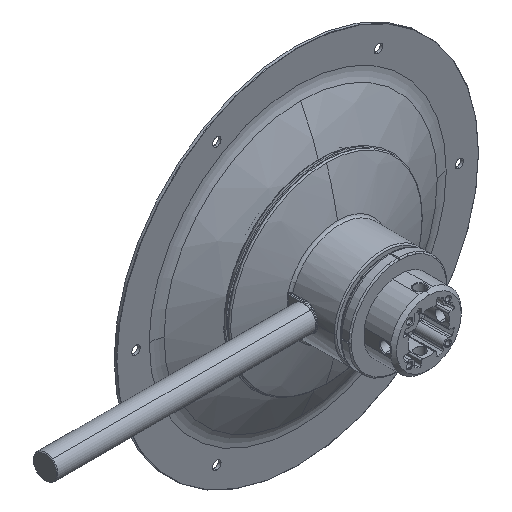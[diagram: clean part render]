
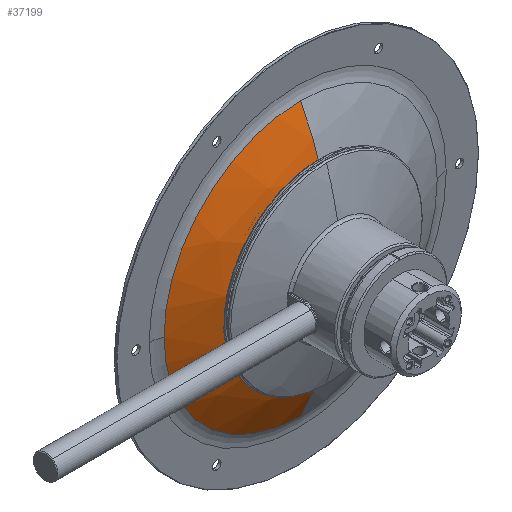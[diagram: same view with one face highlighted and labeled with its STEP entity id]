
A CAD part, isometric view. The second image highlights one B-rep face of the part: STEP entity #37199.
In plain terms, the highlighted spherical face has radius 229 mm.
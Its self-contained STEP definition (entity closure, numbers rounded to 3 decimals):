
#928 = AXIS2_PLACEMENT_3D ( 'NONE', #35428, #5881, #6812 ) ;
#960 = CIRCLE ( 'NONE', #16110, 229. ) ;
#1541 = DIRECTION ( 'NONE',  ( 0., 0., -1. ) ) ;
#1566 = VERTEX_POINT ( 'NONE', #18569 ) ;
#1586 = CARTESIAN_POINT ( 'NONE',  ( 40.352, -26.5, 0. ) ) ;
#1666 = FACE_OUTER_BOUND ( 'NONE', #27524, .T. ) ;
#1825 = DIRECTION ( 'NONE',  ( 0., -1., 0. ) ) ;
#2543 = EDGE_CURVE ( 'NONE', #18921, #1566, #26893, .T. ) ;
#2901 = VERTEX_POINT ( 'NONE', #18378 ) ;
#3545 = DIRECTION ( 'NONE',  ( 1., 0., 0. ) ) ;
#4294 = DIRECTION ( 'NONE',  ( 0., 0., -1. ) ) ;
#5845 = ORIENTED_EDGE ( 'NONE', *, *, #35687, .T. ) ;
#5881 = DIRECTION ( 'NONE',  ( 0., -1., 0. ) ) ;
#6812 = DIRECTION ( 'NONE',  ( 0., 0., -1. ) ) ;
#7820 = DIRECTION ( 'NONE',  ( -1., 0., 0. ) ) ;
#8016 = ORIENTED_EDGE ( 'NONE', *, *, #18979, .F. ) ;
#13157 = DIRECTION ( 'NONE',  ( 0., 0., -1. ) ) ;
#13326 = VERTEX_POINT ( 'NONE', #1586 ) ;
#13808 = DIRECTION ( 'NONE',  ( 0., 0., -1. ) ) ;
#14176 = CARTESIAN_POINT ( 'NONE',  ( 0., -4.256, 0. ) ) ;
#14584 = CARTESIAN_POINT ( 'NONE',  ( 0., 198.917, 0. ) ) ;
#15820 = CARTESIAN_POINT ( 'NONE',  ( 0., 198.917, 0. ) ) ;
#16110 = AXIS2_PLACEMENT_3D ( 'NONE', #14584, #20635, #3545 ) ;
#17247 = AXIS2_PLACEMENT_3D ( 'NONE', #27490, #33948, #1541 ) ;
#18378 = CARTESIAN_POINT ( 'NONE',  ( 105.65, -4.256, 0. ) ) ;
#18389 = VERTEX_POINT ( 'NONE', #27315 ) ;
#18569 = CARTESIAN_POINT ( 'NONE',  ( -105.65, -4.256, 0. ) ) ;
#18921 = VERTEX_POINT ( 'NONE', #28139 ) ;
#18979 = EDGE_CURVE ( 'NONE', #13326, #37515, #27203, .T. ) ;
#19362 = AXIS2_PLACEMENT_3D ( 'NONE', #24772, #1825, #4294 ) ;
#19580 = ORIENTED_EDGE ( 'NONE', *, *, #22890, .T. ) ;
#20409 = AXIS2_PLACEMENT_3D ( 'NONE', #23076, #28732, #28171 ) ;
#20635 = DIRECTION ( 'NONE',  ( 0., 0., 1. ) ) ;
#21555 = AXIS2_PLACEMENT_3D ( 'NONE', #14176, #34247, #13808 ) ;
#21953 = SPHERICAL_SURFACE ( 'NONE', #20409, 229. ) ;
#22500 = EDGE_CURVE ( 'NONE', #37515, #18389, #26359, .T. ) ;
#22890 = EDGE_CURVE ( 'NONE', #1566, #18389, #960, .T. ) ;
#23076 = CARTESIAN_POINT ( 'NONE',  ( 0., 198.917, 0. ) ) ;
#24342 = ORIENTED_EDGE ( 'NONE', *, *, #22500, .F. ) ;
#24772 = CARTESIAN_POINT ( 'NONE',  ( 0., -26.5, 0. ) ) ;
#26359 = CIRCLE ( 'NONE', #928, 40.352 ) ;
#26893 = CIRCLE ( 'NONE', #17247, 105.65 ) ;
#27203 = CIRCLE ( 'NONE', #19362, 40.352 ) ;
#27315 = CARTESIAN_POINT ( 'NONE',  ( -40.352, -26.5, 0. ) ) ;
#27490 = CARTESIAN_POINT ( 'NONE',  ( 0., -4.256, 0. ) ) ;
#27524 = EDGE_LOOP ( 'NONE', ( #29703, #5845, #33574, #19580, #24342, #8016 ) ) ;
#28139 = CARTESIAN_POINT ( 'NONE',  ( 0., -4.256, 105.65 ) ) ;
#28171 = DIRECTION ( 'NONE',  ( -1., 0., 0. ) ) ;
#28513 = EDGE_CURVE ( 'NONE', #2901, #13326, #37381, .T. ) ;
#28732 = DIRECTION ( 'NONE',  ( 0., 0., -1. ) ) ;
#29703 = ORIENTED_EDGE ( 'NONE', *, *, #28513, .F. ) ;
#33030 = CIRCLE ( 'NONE', #21555, 105.65 ) ;
#33277 = CARTESIAN_POINT ( 'NONE',  ( 0., -26.5, 40.352 ) ) ;
#33574 = ORIENTED_EDGE ( 'NONE', *, *, #2543, .T. ) ;
#33948 = DIRECTION ( 'NONE',  ( 0., -1., 0. ) ) ;
#34247 = DIRECTION ( 'NONE',  ( 0., -1., 0. ) ) ;
#34925 = AXIS2_PLACEMENT_3D ( 'NONE', #15820, #13157, #7820 ) ;
#35428 = CARTESIAN_POINT ( 'NONE',  ( 0., -26.5, 0. ) ) ;
#35687 = EDGE_CURVE ( 'NONE', #2901, #18921, #33030, .T. ) ;
#37199 = ADVANCED_FACE ( 'NONE', ( #1666 ), #21953, .T. ) ;
#37381 = CIRCLE ( 'NONE', #34925, 229. ) ;
#37515 = VERTEX_POINT ( 'NONE', #33277 ) ;
